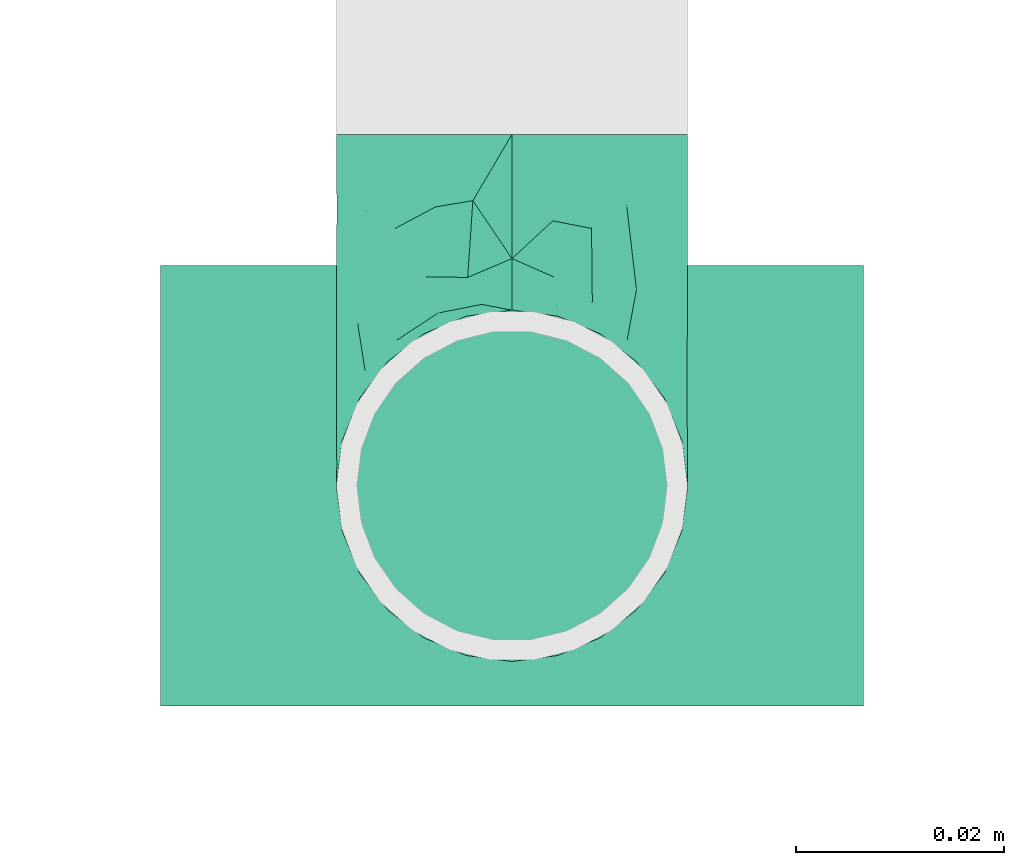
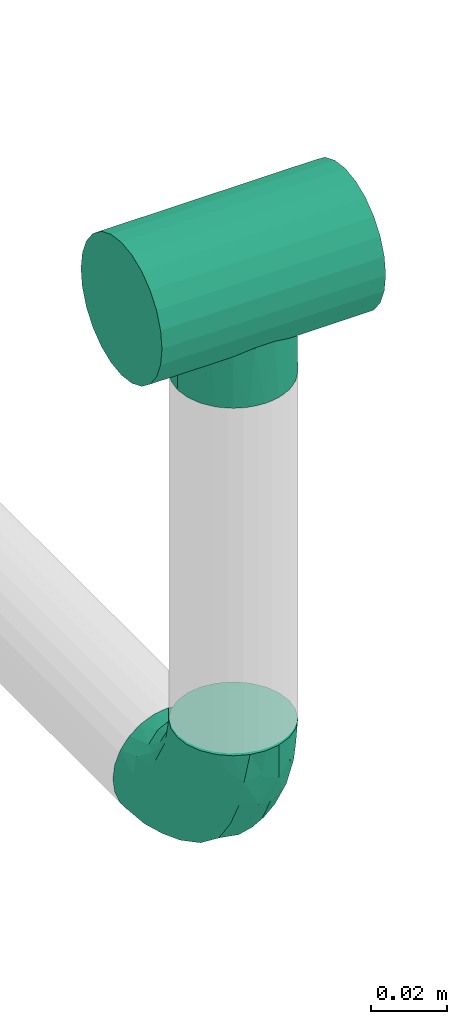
# One storey, part 29 of 63: 2 flow fittings.
"""IFC2X3 building model written with IfcOpenShell, lengths in millimetres."""

from ifc_helpers import new_model, entity, si_unit, converted_unit, derived_unit, direction, frame, origin_with_axes, place, context, subcontext, project, spatial, open_shell, surface_model, source, transform, mapped, type_object, element, save


model = new_model("IFC2X3")

# Units and contexts
model_context = context("Model", 3, precision=0.01, world=frame((0.0, 4.29681676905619e-09, 0.0)), true_north=direction((4.01073788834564e-13, 1.0)))
plan_context = context("Plan", 3, precision=0.01, world=frame((0.0, 4.29681676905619e-09, 0.0)), true_north=direction((4.01073788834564e-13, 1.0)))
body_context = subcontext(model_context, "Body", "Model", "MODEL_VIEW")
ifc_project = project(units=[converted_unit("PLANEANGLEUNIT", "DEGREE", entity("IfcPositiveLengthMeasure", 0.0174532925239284), si_unit("PLANEANGLEUNIT", "RADIAN"), dimensions=[0, 0, 0, 0, 0, 0, 0]), si_unit("AREAUNIT", "SQUARE_METRE"), si_unit("LENGTHUNIT", "METRE", prefix="MILLI"), si_unit("MASSUNIT", "GRAM", prefix="KILO"), si_unit("POWERUNIT", "WATT"), si_unit("PRESSUREUNIT", "PASCAL", prefix="KILO"), si_unit("FORCEUNIT", "NEWTON", prefix="KILO"), si_unit("ELECTRICVOLTAGEUNIT", "VOLT"), si_unit("ELECTRICCURRENTUNIT", "AMPERE"), si_unit("THERMODYNAMICTEMPERATUREUNIT", "DEGREE_CELSIUS"), si_unit("TIMEUNIT", "SECOND"), si_unit("VOLUMEUNIT", "CUBIC_METRE"), derived_unit("LINEARVELOCITYUNIT", [(si_unit("LENGTHUNIT", "METRE"), 1), (si_unit("TIMEUNIT", "SECOND"), -1)]), derived_unit("VOLUMETRICFLOWRATEUNIT", [(si_unit("VOLUMEUNIT", "CUBIC_METRE"), 1), (si_unit("TIMEUNIT", "SECOND"), -1)]), derived_unit("THERMALTRANSMITTANCEUNIT", [(si_unit("POWERUNIT", "WATT"), 1), (si_unit("THERMODYNAMICTEMPERATUREUNIT", "KELVIN"), -1), (si_unit("AREAUNIT", "SQUARE_METRE"), -1)]), derived_unit("SOUNDPRESSUREUNIT", [(si_unit("PRESSUREUNIT", "PASCAL"), 1)])], contexts=[model_context, plan_context])

# Site, building, storey
site_placement = place(None, frame((0.0, -4.29681676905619e-09, 0.0), z_axis=(0.0, 0.0, 1.0), x_axis=(1.0, 0.0, 0.0)))
site = spatial("IfcSite", under=ifc_project, at=site_placement, CompositionType="ELEMENT")
building_placement = place(site_placement, frame((0.0, 4.29681676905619e-09, 0.0), z_axis=(0.0, 0.0, 1.0), x_axis=(1.0, 0.0, 0.0)))
building = spatial("IfcBuilding", under=site, at=building_placement, Name="mc-building", CompositionType="ELEMENT")
storey_placement = place(building_placement, frame((0.0, 0.0, 207370.0), z_axis=(0.0, 0.0, 1.0), x_axis=(1.0, 0.0, 0.0)))
storey = spatial("IfcBuildingStorey", under=building, at=storey_placement, Name="Nivå E", CompositionType="ELEMENT", Elevation=207370.0)

# Flow fittings
pipe_fitting_type_1 = type_object("IfcPipeFittingType", Name="magi_pipe_fe_tee_centric_90_NOR", PredefinedType="JUNCTION")
shared_shape_1 = source(origin_with_axes(), body_context, "Body", "SurfaceModel", [
    surface_model("IfcShellBasedSurfaceModel", [(-33.8, 0.0, -21.2), (-33.8, -5.48696, -20.47763), (-33.8, 5.48696, -20.47763), (-33.8, 10.6, -18.35974), (-33.8, 14.99066, -14.99066), (-33.8, -20.47763, 5.48696), (-33.8, 18.35974, -10.6), (-33.8, 10.6, 18.35974), (-33.8, -14.99066, -14.99066), (-33.8, -18.35974, -10.6), (-33.8, -10.6, -18.35974), (-33.8, -20.47763, -5.48696), (-33.8, -21.2, 0.0), (-33.8, 18.35974, 10.6), (-33.8, 20.47763, -5.48696), (-33.8, 20.47763, 5.48696), (-33.8, 21.2, 0.0), (-33.8, 14.99066, 14.99066), (-33.8, 5.48696, 20.47763), (-33.8, 0.0, 21.2), (-33.8, -18.35974, 10.6), (-33.8, -14.99066, 14.99066), (-33.8, -10.6, 18.35974), (-33.8, -5.48696, 20.47763), (33.8, 5.48696, -20.47763), (33.8, -5.48696, -20.47763), (33.8, 0.0, -21.2), (33.8, 14.99066, -14.99066), (33.8, 10.6, -18.35974), (33.8, 18.35974, -10.6), (33.8, 20.47763, -5.48696), (33.8, -21.2, 0.0), (33.8, -10.6, -18.35974), (33.8, -18.35974, -10.6), (33.8, -14.99066, -14.99066), (33.8, -20.47763, -5.48696), (33.8, -20.47763, 5.48696), (33.8, 21.2, 0.0), (33.8, 20.47763, 5.48696), (33.8, 18.35974, 10.6), (33.8, 10.6, 18.35974), (33.8, 14.99066, 14.99066), (33.8, 0.0, 21.2), (33.8, 5.48696, 20.47763), (33.8, -14.99066, 14.99066), (33.8, -18.35974, 10.6), (33.8, -10.6, 18.35974), (33.8, -5.48696, 20.47763), (16.9, -21.2, 0.0), (15.78624, -20.32327, 6.03364), (12.81343, -18.11115, 11.01935), (8.52479, -15.37862, 14.59239), (3.07939, -13.16482, 16.61708), (-16.9, -21.2, 0.0), (-15.78686, -20.32375, 6.032), (-8.52604, -15.37932, 14.59166), (-3.0848, -13.16609, 16.61608), (-12.81602, -18.11299, 11.01634), (3.07939, -13.16482, -16.61708), (12.81343, -18.11115, -11.01935), (8.52479, -15.37862, -14.59239), (15.78624, -20.32327, -6.03364), (-3.0848, -13.16609, -16.61608), (-8.52604, -15.37932, -14.59166), (-12.81602, -18.11299, -11.01634), (-15.78686, -20.32375, -6.032), (4.37404, -31.8, -16.32415), (-16.9, -31.8, 0.0), (0.0, -31.8, -16.9), (14.63583, -31.8, -8.45), (8.45, -31.8, -14.63583), (16.32415, -31.8, -4.37404), (11.9501, -31.8, -11.9501), (-11.9501, -31.8, -11.9501), (-8.45, -31.8, -14.63583), (-4.37404, -31.8, -16.32415), (-14.63583, -31.8, -8.45), (-16.32415, -31.8, -4.37404), (16.9, -31.8, 0.0), (8.45, -31.8, 14.63583), (16.32415, -31.8, 4.37404), (14.63583, -31.8, 8.45), (-8.45, -31.8, 14.63583), (11.9501, -31.8, 11.9501), (4.37404, -31.8, 16.32415), (-16.32415, -31.8, 4.37404), (-11.9501, -31.8, 11.9501), (-14.63583, -31.8, 8.45), (0.0, -31.8, 16.9), (-4.37404, -31.8, 16.32415), (-16.34343, -20.76188, 3.016), (16.34312, -20.76163, 3.01682), (-0.00271, -13.16546, 16.61658), (16.34312, -20.76163, -3.01682), (-0.00271, -13.16546, -16.61658), (-16.34343, -20.76188, -3.016)], [open_shell([[[0, 1, 2]], [[3, 2, 4]], [[5, 2, 1]], [[4, 2, 6]], [[6, 2, 7]], [[8, 9, 10]], [[1, 10, 9]], [[9, 11, 1]], [[12, 1, 11]], [[5, 1, 12]], [[13, 14, 6]], [[13, 15, 16]], [[6, 7, 13]], [[5, 7, 2]], [[17, 13, 7]], [[18, 7, 19]], [[20, 21, 5]], [[22, 5, 21]], [[23, 19, 22]], [[7, 5, 22]], [[22, 19, 7]], [[16, 14, 13]], [[24, 25, 26]], [[27, 24, 28]], [[29, 30, 24]], [[29, 24, 27]], [[31, 24, 30]], [[32, 33, 34]], [[33, 32, 25]], [[33, 31, 35]], [[31, 33, 25]], [[25, 24, 31]], [[30, 36, 31]], [[37, 38, 39]], [[37, 39, 40]], [[37, 40, 36]], [[40, 39, 41]], [[42, 40, 43]], [[36, 44, 45]], [[44, 36, 46]], [[46, 42, 47]], [[46, 36, 40]], [[40, 42, 46]], [[37, 36, 30]], [[31, 36, 48]], [[49, 48, 36]], [[36, 45, 49]], [[45, 44, 50]], [[51, 50, 44]], [[52, 51, 44]], [[44, 46, 52]], [[45, 50, 49]], [[53, 54, 5]], [[5, 12, 53]], [[54, 20, 5]], [[55, 56, 21]], [[20, 57, 21]], [[57, 20, 54]], [[21, 57, 55]], [[56, 22, 21]], [[52, 22, 56]], [[19, 47, 42]], [[23, 46, 47]], [[18, 42, 43]], [[39, 38, 15]], [[17, 40, 41]], [[13, 41, 39]], [[43, 40, 7]], [[16, 38, 37]], [[22, 46, 23]], [[23, 47, 19]], [[18, 19, 42]], [[43, 7, 18]], [[7, 40, 17]], [[13, 17, 41]], [[15, 13, 39]], [[38, 16, 15]], [[46, 22, 52]], [[6, 30, 29]], [[14, 37, 30]], [[4, 29, 27]], [[26, 25, 1]], [[2, 28, 24]], [[0, 24, 26]], [[27, 28, 3]], [[10, 25, 32]], [[16, 37, 14]], [[14, 30, 6]], [[4, 6, 29]], [[27, 3, 4]], [[3, 28, 2]], [[0, 2, 24]], [[1, 0, 26]], [[25, 10, 1]], [[32, 58, 10]], [[34, 59, 60]], [[59, 34, 33]], [[60, 58, 34]], [[34, 58, 32]], [[35, 31, 48]], [[35, 61, 33]], [[61, 35, 48]], [[33, 61, 59]], [[62, 63, 8]], [[8, 64, 9]], [[64, 8, 63]], [[62, 8, 10]], [[65, 53, 11]], [[65, 11, 9]], [[11, 53, 12]], [[65, 9, 64]], [[58, 62, 10]], [[66, 67, 68]], [[69, 66, 70]], [[69, 71, 66]], [[69, 70, 72]], [[67, 66, 71]], [[68, 73, 74]], [[74, 75, 68]], [[76, 67, 77]], [[73, 68, 76]], [[67, 76, 68]], [[71, 78, 67]], [[79, 78, 80]], [[79, 80, 81]], [[82, 67, 79]], [[79, 81, 83]], [[82, 79, 84]], [[85, 86, 87]], [[86, 85, 82]], [[82, 88, 89]], [[85, 67, 82]], [[84, 88, 82]], [[79, 67, 78]], [[85, 90, 67]], [[57, 87, 86]], [[85, 87, 54]], [[86, 82, 55]], [[85, 54, 90]], [[90, 53, 67]], [[54, 87, 57]], [[91, 49, 80]], [[55, 89, 56]], [[55, 57, 86]], [[88, 52, 92]], [[55, 82, 89]], [[52, 88, 84]], [[79, 51, 84]], [[50, 83, 81]], [[83, 51, 79]], [[81, 80, 49]], [[83, 50, 51]], [[51, 52, 84]], [[78, 91, 80]], [[49, 50, 81]], [[91, 78, 48]], [[88, 56, 89]], [[92, 56, 88]], [[71, 93, 78]], [[59, 69, 72]], [[71, 69, 61]], [[72, 70, 60]], [[93, 48, 78]], [[61, 69, 59]], [[60, 66, 58]], [[60, 59, 72]], [[68, 62, 94]], [[60, 70, 66]], [[95, 67, 53]], [[95, 65, 77]], [[71, 61, 93]], [[75, 62, 68]], [[65, 76, 77]], [[73, 76, 64]], [[68, 58, 66]], [[75, 63, 62]], [[63, 75, 74]], [[74, 73, 63]], [[63, 73, 64]], [[64, 76, 65]], [[67, 95, 77]], [[94, 58, 68]]])]),
])
flow_fitting_1_placement = place(storey_placement, frame((722000.0, 435194.37907, 7130.0), z_axis=(0.0, 1.0, 0.0), x_axis=(-1.0, 0.0, 0.0)))
element("IfcFlowFitting", 1, at=flow_fitting_1_placement, inside=storey, type_object=pipe_fitting_type_1, Name="magi_pipe_fe_tee_centric_90_NOR", context=body_context, shape_type="MappedRepresentation", body=[
    mapped(shared_shape_1, transform((0.0, 0.0, 0.0), scale=1.0)),
])
pipe_fitting_type_2 = type_object("IfcPipeFittingType", Name="magi_pipe_fe_elbow_short_001", PredefinedType="BEND")
shared_shape_2 = source(origin_with_axes(), body_context, "Body", "SurfaceModel", [
    surface_model("IfcShellBasedSurfaceModel", [(-33.8, 8.45, -14.63583), (-33.8, 4.37404, -16.32415), (-33.8, 11.9501, -11.9501), (-33.8, -11.9501, -11.9501), (-33.8, -14.63583, -8.45), (-33.8, -8.45, -14.63583), (-33.8, 0.0, -16.9), (-33.8, -4.37404, -16.32415), (-33.8, -4.37404, 16.32415), (-33.8, 0.0, 16.9), (-33.8, -8.45, 14.63583), (-33.8, 16.32415, -4.37404), (-33.8, 14.63583, -8.45), (-33.8, -16.32415, -4.37404), (-33.8, -16.9, 0.0), (-33.8, -16.32415, 4.37404), (-33.8, 11.9501, 11.9501), (-33.8, 14.63583, 8.45), (-33.8, 16.32415, 4.37404), (-33.8, 4.37404, 16.32415), (-33.8, 8.45, 14.63583), (-33.8, -14.63583, 8.45), (-33.8, -11.9501, 11.9501), (-33.8, 16.9, 0.0), (-11.9501, 33.8, -11.9501), (0.0, 33.8, -16.9), (-4.37404, 33.8, -16.32415), (-8.45, 33.8, -14.63583), (-14.63583, 33.8, -8.45), (-16.32415, 33.8, -4.37404), (14.63583, 33.8, -8.45), (8.45, 33.8, 14.63583), (16.32415, 33.8, -4.37404), (8.45, 33.8, -14.63583), (11.9501, 33.8, -11.9501), (4.37404, 33.8, -16.32415), (16.32415, 33.8, 4.37404), (16.9, 33.8, 0.0), (-11.9501, 33.8, 11.9501), (-16.32415, 33.8, 4.37404), (-14.63583, 33.8, 8.45), (-8.45, 33.8, 14.63583), (-4.37404, 33.8, 16.32415), (11.9501, 33.8, 11.9501), (14.63583, 33.8, 8.45), (0.0, 33.8, 16.9), (4.37404, 33.8, 16.32415), (-16.9, 33.8, 0.0), (-24.79389, -13.12945, 9.48721), (-22.19287, -9.75018, 12.59315), (-24.09897, -14.97035, 0.0), (-14.93934, -10.76256, 8.5297), (-22.46095, -14.75051, 5.27077), (14.75051, 22.46094, 5.27077), (11.9251, 13.23888, 4.33236), (13.04069, 14.39795, 0.0), (7.71387, 13.68847, 11.55891), (9.75018, 22.19287, 12.59315), (4.10169, 13.0571, 14.04018), (-24.84007, -6.39063, 15.2048), (-25.81779, -2.23879, 16.61097), (-23.66549, 2.59054, 16.87119), (-26.50418, 14.06512, 11.08152), (-24.21253, 17.66365, 7.72657), (-29.58514, 15.86957, 7.00283), (-6.17382, -7.5455, 0.0), (-13.23888, -11.9251, 4.33236), (-14.39795, -13.04069, 0.0), (-17.81434, 18.87373, 11.97104), (-6.30846, 29.15138, 15.82987), (-2.31622, 25.28002, 16.85849), (-29.23923, 10.23435, 13.77053), (-1.45439, -2.85688, 7.61475), (-0.28326, 0.34872, 10.09509), (-5.74484, -4.04709, 10.4122), (-4.41137, 11.31918, 16.59407), (-8.39727, 3.10034, 15.7812), (-1.72649, 9.1306, 15.53089), (-17.39909, 24.75344, 7.64977), (-26.19233, 20.0512, 0.0), (-28.14518, 17.29657, 4.25857), (-26.05147, 6.6281, 15.96447), (-5.87354, 16.61944, 16.86968), (-12.51807, 12.51807, 16.48937), (-10.06312, 7.38516, 16.81295), (-3.01882, 3.01882, 13.81718), (-13.0571, -4.10169, 14.04018), (-16.82553, -0.15166, 16.38038), (10.76256, 14.93934, 8.5297), (13.12945, 24.79389, 9.48721), (6.39063, 24.84007, 15.2048), (2.23879, 25.81779, 16.61097), (-13.68847, -7.71387, 11.55891), (14.97035, 24.09897, 0.0), (-7.30894, 22.89991, 16.09489), (-10.67958, 26.17414, 14.008), (-12.78295, 18.26924, 15.06066), (-13.88562, 22.45231, 12.93244), (-18.04944, 15.16501, 14.04434), (-23.11658, 20.08178, 4.02986), (-21.84989, 21.84989, 0.0), (-18.55817, 25.48277, 3.93065), (-13.95142, 26.94732, 11.03289), (-18.57098, 7.23906, 16.59756), (-16.58335, 4.14122, 16.89279), (-17.96666, 11.46709, 15.63151), (-9.84453, 17.54304, 16.18938), (0.15166, 16.82553, 16.38038), (-23.27207, 11.47201, 14.23154), (3.84842, 5.86994, 10.70473), (-8.0212, -7.54413, 7.93275), (1.00345, -2.19508, 4.57414), (5.13203, 3.01004, 5.90201), (5.24161, 1.7543, 2.53265), (8.70457, 7.04947, 3.99182), (-20.0512, 26.19233, 0.0), (8.4852, 8.76699, 7.09296), (-4.55488, -6.72064, 4.90681), (2.05031, -2.05031, 0.0), (7.5455, 6.17382, 0.0), (-26.75399, 2.1369, -16.845), (-14.61995, 24.73803, -11.27736), (-28.45274, -13.45335, -9.81895), (-26.00469, 6.63555, -15.96645), (-23.06726, 20.04573, -4.26202), (-13.80647, -4.26506, -14.17873), (-14.67501, -0.21081, -16.07388), (-6.7902, -0.2828, -13.8478), (-24.53586, 11.08096, -14.13417), (-26.72048, 14.00837, -11.05776), (10.0967, 24.44989, -12.75976), (5.83237, 21.40218, -15.03047), (6.66249, 28.54238, -15.38093), (-20.38182, 15.48705, -12.74596), (12.53268, 21.23441, -9.15363), (12.54494, 15.67504, -5.54878), (9.7522, 12.89279, -8.66343), (-15.65186, 19.64213, -13.01327), (-12.03528, 20.66498, -14.67665), (-15.61907, 15.61906, -14.83879), (-25.56551, -15.26206, 0.0), (-24.65452, -15.12934, -5.50955), (13.45335, 28.45274, -9.81895), (15.12934, 24.65452, -5.50955), (-7.35442, -8.31014, -5.65563), (-15.67504, -12.54494, -5.54878), (-24.44989, -10.0967, -12.75976), (0.16522, 0.41303, -9.71728), (-5.70658, -5.33066, -8.89288), (-5.13869, -2.37198, -11.53565), (-21.23441, -12.53268, -9.15363), (0.71146, 7.93863, -14.09382), (0.21081, 14.67501, -16.07388), (3.49291, 14.42772, -14.76381), (-24.89911, -2.13088, -16.591), (-28.54238, -6.66249, -15.38093), (-18.44386, -7.71663, -13.26957), (2.13088, 24.89911, -16.591), (-28.64342, 17.44413, -2.89318), (1.70017, -1.28722, -5.09504), (-16.57067, 26.81947, -7.36596), (-17.69055, 27.4263, -3.76405), (-12.89279, -9.7522, -8.66343), (-5.96611, 5.96611, -15.95814), (-20.53709, 20.09345, -8.28985), (-2.1369, 26.75399, -16.845), (-6.89872, 24.58781, -16.02578), (-10.60739, 26.53157, -13.98044), (-21.40218, -5.83237, -15.03047), (2.93192, 5.89627, -11.55917), (6.89393, 12.61842, -11.82233), (5.58056, 5.95325, -8.79455), (-3.99512, 18.61798, -16.89635), (8.31014, 7.35442, -5.65563), (-9.1383, 9.86148, -16.89041), (-9.99983, 16.02119, -16.39699), (-16.68576, 9.78031, -16.34199), (-27.01915, 16.61158, -7.12979), (15.26206, 25.56551, 0.0), (-18.61798, 3.99512, -16.89635), (-19.37495, 27.82495, 0.0), (-12.61842, -6.89393, -11.82233), (-18.84705, 19.14018, -10.96545)], [open_shell([[[0, 1, 2]], [[3, 4, 5]], [[6, 7, 5]], [[8, 9, 10]], [[1, 6, 2]], [[11, 12, 2]], [[4, 2, 6]], [[2, 13, 10]], [[5, 4, 6]], [[2, 4, 13]], [[14, 15, 13]], [[11, 2, 16]], [[11, 17, 18]], [[11, 16, 17]], [[19, 20, 16]], [[16, 2, 10]], [[19, 16, 10]], [[21, 22, 15]], [[22, 13, 15]], [[22, 10, 13]], [[10, 9, 19]], [[11, 18, 23]], [[24, 25, 26]], [[24, 26, 27]], [[24, 28, 29]], [[25, 24, 30]], [[31, 32, 24]], [[33, 30, 34]], [[33, 35, 25]], [[25, 30, 33]], [[32, 30, 24]], [[32, 36, 37]], [[38, 24, 29]], [[39, 40, 29]], [[40, 38, 29]], [[38, 41, 42]], [[38, 31, 24]], [[31, 38, 42]], [[36, 43, 44]], [[36, 32, 43]], [[31, 45, 46]], [[32, 31, 43]], [[42, 45, 31]], [[39, 29, 47]], [[22, 48, 49]], [[15, 14, 50]], [[51, 48, 52]], [[53, 54, 55]], [[48, 22, 21]], [[15, 52, 21]], [[56, 57, 58]], [[49, 10, 22]], [[49, 59, 10]], [[9, 60, 61]], [[62, 63, 64]], [[65, 66, 67]], [[57, 43, 31]], [[62, 68, 63]], [[42, 69, 70]], [[20, 71, 16]], [[8, 60, 9]], [[72, 73, 74]], [[75, 76, 77]], [[16, 62, 17]], [[40, 39, 78]], [[79, 23, 80]], [[64, 18, 17]], [[9, 61, 19]], [[19, 81, 20]], [[82, 83, 84]], [[74, 85, 86]], [[59, 86, 87]], [[88, 89, 57]], [[90, 31, 46]], [[44, 53, 36]], [[46, 45, 91]], [[54, 53, 88]], [[44, 89, 53]], [[92, 86, 49]], [[89, 44, 43]], [[10, 59, 8]], [[53, 55, 93]], [[93, 36, 53]], [[66, 52, 67]], [[94, 82, 70]], [[95, 96, 94]], [[97, 98, 96]], [[79, 99, 100]], [[41, 38, 95]], [[101, 100, 99]], [[68, 78, 63]], [[42, 41, 69]], [[23, 18, 80]], [[95, 94, 69]], [[78, 101, 99]], [[38, 102, 95]], [[70, 45, 42]], [[97, 95, 102]], [[15, 50, 52]], [[90, 57, 31]], [[57, 90, 58]], [[81, 19, 61]], [[103, 104, 84]], [[105, 81, 103]], [[38, 40, 102]], [[106, 96, 83]], [[94, 106, 82]], [[91, 70, 107]], [[71, 62, 16]], [[62, 108, 98]], [[86, 59, 49]], [[67, 52, 50]], [[60, 59, 87]], [[92, 49, 51]], [[86, 85, 76]], [[91, 90, 46]], [[37, 36, 93]], [[107, 77, 58]], [[107, 58, 90]], [[58, 85, 109]], [[110, 74, 92]], [[72, 74, 110]], [[66, 51, 52]], [[72, 111, 112]], [[113, 114, 112]], [[56, 88, 57]], [[52, 48, 21]], [[49, 48, 51]], [[57, 89, 43]], [[53, 89, 88]], [[103, 81, 61]], [[71, 81, 108]], [[18, 64, 80]], [[63, 78, 99]], [[47, 115, 101]], [[101, 115, 100]], [[40, 78, 102]], [[68, 102, 78]], [[97, 96, 95]], [[105, 98, 108]], [[103, 84, 83]], [[107, 70, 82]], [[76, 84, 87]], [[82, 84, 75]], [[70, 91, 45]], [[90, 91, 107]], [[59, 60, 8]], [[61, 60, 87]], [[73, 85, 74]], [[109, 112, 116]], [[103, 61, 104]], [[105, 103, 83]], [[96, 105, 83]], [[81, 105, 108]], [[96, 98, 105]], [[62, 98, 68]], [[61, 87, 104]], [[87, 84, 104]], [[86, 76, 87]], [[77, 76, 85]], [[58, 77, 85]], [[75, 77, 107]], [[82, 75, 107]], [[76, 75, 84]], [[81, 71, 20]], [[62, 71, 108]], [[95, 69, 41]], [[70, 69, 94]], [[62, 64, 17]], [[80, 63, 99]], [[63, 80, 64]], [[80, 99, 79]], [[66, 65, 117]], [[110, 66, 117]], [[112, 114, 116]], [[118, 117, 65]], [[110, 92, 51]], [[112, 111, 113]], [[119, 55, 54]], [[74, 86, 92]], [[58, 109, 56]], [[116, 56, 109]], [[66, 110, 51]], [[72, 110, 117]], [[111, 72, 117]], [[73, 112, 109]], [[117, 118, 111]], [[113, 111, 118]], [[118, 119, 113]], [[114, 119, 54]], [[119, 114, 113]], [[116, 54, 88]], [[54, 116, 114]], [[116, 88, 56]], [[112, 73, 72]], [[85, 73, 109]], [[78, 39, 101]], [[47, 101, 39]], [[102, 68, 97]], [[97, 68, 98]], [[82, 106, 83]], [[94, 96, 106]], [[1, 120, 6]], [[28, 24, 121]], [[3, 122, 4]], [[0, 123, 1]], [[100, 124, 79]], [[125, 126, 127]], [[128, 2, 129]], [[130, 131, 132]], [[128, 129, 133]], [[134, 135, 136]], [[137, 138, 139]], [[128, 0, 2]], [[67, 140, 141]], [[134, 142, 143]], [[141, 13, 4]], [[144, 65, 145]], [[146, 3, 5]], [[147, 148, 149]], [[145, 141, 150]], [[151, 152, 153]], [[154, 7, 6]], [[5, 155, 146]], [[150, 146, 156]], [[155, 5, 7]], [[143, 135, 134]], [[35, 157, 25]], [[23, 79, 158]], [[148, 159, 144]], [[160, 161, 29]], [[145, 162, 144]], [[163, 152, 151]], [[29, 28, 160]], [[121, 164, 160]], [[33, 34, 130]], [[25, 165, 26]], [[26, 165, 166]], [[142, 34, 30]], [[24, 27, 167]], [[124, 161, 164]], [[157, 35, 132]], [[155, 154, 168]], [[123, 0, 128]], [[169, 170, 171]], [[172, 157, 152]], [[26, 166, 27]], [[132, 35, 33]], [[142, 130, 34]], [[168, 154, 126]], [[136, 135, 173]], [[133, 137, 139]], [[2, 12, 129]], [[170, 131, 130]], [[30, 32, 143]], [[172, 174, 175]], [[176, 123, 128]], [[158, 177, 11]], [[135, 55, 119]], [[167, 27, 166]], [[175, 166, 172]], [[137, 167, 138]], [[122, 141, 4]], [[140, 14, 13]], [[32, 37, 178]], [[170, 130, 134]], [[152, 157, 131]], [[165, 157, 172]], [[153, 170, 151]], [[152, 163, 174]], [[168, 125, 156]], [[122, 146, 150]], [[120, 154, 6]], [[179, 174, 126]], [[179, 126, 154]], [[126, 163, 127]], [[162, 145, 150]], [[140, 13, 141]], [[32, 178, 143]], [[55, 143, 178]], [[177, 129, 12]], [[128, 133, 139]], [[176, 128, 139]], [[120, 123, 179]], [[121, 160, 28]], [[161, 100, 180]], [[166, 175, 138]], [[121, 24, 167]], [[161, 47, 29]], [[79, 124, 158]], [[124, 164, 177]], [[161, 124, 100]], [[136, 171, 170]], [[127, 163, 151]], [[147, 171, 159]], [[148, 144, 162]], [[127, 151, 169]], [[127, 181, 125]], [[129, 177, 164]], [[12, 11, 177]], [[159, 65, 144]], [[67, 141, 145]], [[143, 55, 135]], [[135, 119, 173]], [[123, 120, 1]], [[154, 120, 179]], [[157, 165, 25]], [[166, 165, 172]], [[172, 152, 174]], [[176, 139, 175]], [[126, 174, 163]], [[176, 174, 179]], [[174, 176, 175]], [[123, 176, 179]], [[150, 181, 162]], [[127, 149, 181]], [[181, 148, 162]], [[159, 148, 147]], [[171, 136, 173]], [[170, 134, 136]], [[159, 171, 173]], [[171, 147, 169]], [[169, 147, 149]], [[151, 170, 169]], [[164, 182, 129]], [[182, 121, 137]], [[181, 149, 148]], [[169, 149, 127]], [[182, 137, 133]], [[167, 137, 121]], [[166, 138, 167]], [[175, 139, 138]], [[129, 182, 133]], [[121, 182, 164]], [[161, 160, 164]], [[47, 161, 180]], [[177, 158, 124]], [[23, 158, 11]], [[130, 132, 33]], [[157, 132, 131]], [[143, 142, 30]], [[130, 142, 134]], [[154, 155, 7]], [[146, 155, 168]], [[146, 122, 3]], [[141, 122, 150]], [[152, 131, 153]], [[159, 119, 118]], [[67, 145, 65]], [[170, 153, 131]], [[119, 159, 173]], [[159, 118, 65]], [[156, 125, 181]], [[126, 125, 168]], [[150, 156, 181]], [[168, 156, 146]]])]),
])
flow_fitting_2_placement = place(storey_placement, frame((722000.0, 435194.37907, 6953.42494), z_axis=(1.0, 0.0, 0.0), x_axis=(0.0, 0.0, -1.0)))
element("IfcFlowFitting", 2, at=flow_fitting_2_placement, inside=storey, type_object=pipe_fitting_type_2, Name="magi_pipe_fe_elbow_short_001", context=body_context, shape_type="MappedRepresentation", body=[
    mapped(shared_shape_2, transform((0.0, 0.0, 0.0), scale=1.0)),
])

save(model, "model.ifc")
